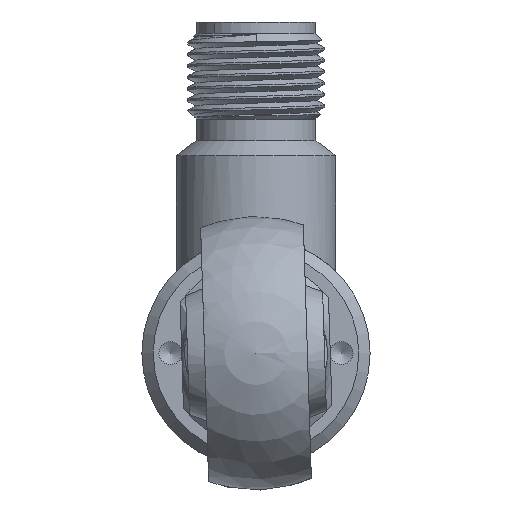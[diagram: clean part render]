
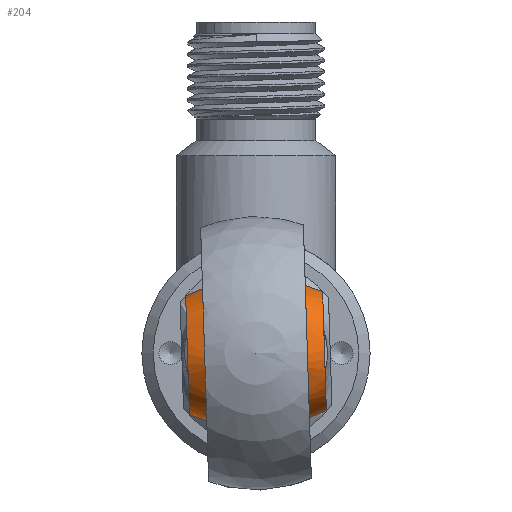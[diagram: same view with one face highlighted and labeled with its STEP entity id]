
A CAD part, left-side view. The second image highlights one B-rep face of the part: STEP entity #204.
In plain terms, the highlighted free-form (B-spline) face has degree [3, 3] with [4, 7] control points.
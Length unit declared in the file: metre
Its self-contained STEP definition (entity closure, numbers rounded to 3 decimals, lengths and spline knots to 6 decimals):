
#204 = ADVANCED_FACE( '', ( #469, #470 ), #471, .T. );
#469 = FACE_OUTER_BOUND( '', #909, .T. );
#470 = FACE_OUTER_BOUND( '', #910, .T. );
#471 = ( B_SPLINE_SURFACE( 3, 3, ( ( #912, #913, #914, #915, #916, #917, #918 ), ( #919, #920, #921, #922, #923, #924, #925 ), ( #926, #927, #928, #929, #930, #931, #932 ), ( #933, #934, #935, #936, #937, #938, #939 ) ), .UNSPECIFIED., .F., .T., .F. )B_SPLINE_SURFACE_WITH_KNOTS( ( 4, 4 ), ( 4, 3, 4 ), ( 0., 6.283185 ), ( -0.582914, 0., 0.582914 ), .UNSPECIFIED. )RATIONAL_B_SPLINE_SURFACE( ( ( 1., 0.333, 0.333, 1., 0.333, 0.333, 1. ), ( 0.89, 0.297, 0.297, 0.89, 0.297, 0.297, 0.89 ), ( 0.89, 0.297, 0.297, 0.89, 0.297, 0.297, 0.89 ), ( 1., 0.333, 0.333, 1., 0.333, 0.333, 1. ) ) )BOUNDED_SURFACE(  )REPRESENTATION_ITEM( '' )GEOMETRIC_REPRESENTATION_ITEM(  )SURFACE(  ) );
#909 = EDGE_LOOP( '', ( #2569 ) );
#910 = EDGE_LOOP( '', ( #2570 ) );
#912 = CARTESIAN_POINT( '', ( -0.174857, 0.006021, 0.00058 ) );
#913 = CARTESIAN_POINT( '', ( -0.173318, 0.005697, -0.0097 ) );
#914 = CARTESIAN_POINT( '', ( -0.183603, 0.005648, -0.011239 ) );
#915 = CARTESIAN_POINT( '', ( -0.185143, 0.005973, -0.000959 ) );
#916 = CARTESIAN_POINT( '', ( -0.186682, 0.006297, 0.009322 ) );
#917 = CARTESIAN_POINT( '', ( -0.176397, 0.006346, 0.01086 ) );
#918 = CARTESIAN_POINT( '', ( -0.174857, 0.006021, 0.00058 ) );
#919 = CARTESIAN_POINT( '', ( -0.17241, 0.002282, 0.001065 ) );
#920 = CARTESIAN_POINT( '', ( -0.170138, 0.001803, -0.014107 ) );
#921 = CARTESIAN_POINT( '', ( -0.185318, 0.001732, -0.016378 ) );
#922 = CARTESIAN_POINT( '', ( -0.18759, 0.00221, -0.001206 ) );
#923 = CARTESIAN_POINT( '', ( -0.189862, 0.002689, 0.013965 ) );
#924 = CARTESIAN_POINT( '', ( -0.174682, 0.002761, 0.016236 ) );
#925 = CARTESIAN_POINT( '', ( -0.17241, 0.002282, 0.001065 ) );
#926 = CARTESIAN_POINT( '', ( -0.17241, -0.00221, 0.001206 ) );
#927 = CARTESIAN_POINT( '', ( -0.170138, -0.002689, -0.013965 ) );
#928 = CARTESIAN_POINT( '', ( -0.185318, -0.002761, -0.016236 ) );
#929 = CARTESIAN_POINT( '', ( -0.18759, -0.002282, -0.001065 ) );
#930 = CARTESIAN_POINT( '', ( -0.189862, -0.001803, 0.014107 ) );
#931 = CARTESIAN_POINT( '', ( -0.174682, -0.001732, 0.016378 ) );
#932 = CARTESIAN_POINT( '', ( -0.17241, -0.00221, 0.001206 ) );
#933 = CARTESIAN_POINT( '', ( -0.174857, -0.005973, 0.000959 ) );
#934 = CARTESIAN_POINT( '', ( -0.173318, -0.006297, -0.009322 ) );
#935 = CARTESIAN_POINT( '', ( -0.183603, -0.006346, -0.01086 ) );
#936 = CARTESIAN_POINT( '', ( -0.185143, -0.006021, -0.00058 ) );
#937 = CARTESIAN_POINT( '', ( -0.186682, -0.005697, 0.0097 ) );
#938 = CARTESIAN_POINT( '', ( -0.176397, -0.005648, 0.011239 ) );
#939 = CARTESIAN_POINT( '', ( -0.174857, -0.005973, 0.000959 ) );
#2569 = ORIENTED_EDGE( '', *, *, #3390, .F. );
#2570 = ORIENTED_EDGE( '', *, *, #3391, .T. );
#3390 = EDGE_CURVE( '', #3887, #3887, #3888, .T. );
#3391 = EDGE_CURVE( '', #3889, #3889, #3890, .T. );
#3887 = VERTEX_POINT( '', #4773 );
#3888 = CIRCLE( '', #4774, 0.0052 );
#3889 = VERTEX_POINT( '', #4775 );
#3890 = CIRCLE( '', #4776, 0.0052 );
#4773 = CARTESIAN_POINT( '', ( -0.174857, 0.006021, 0.00058 ) );
#4774 = AXIS2_PLACEMENT_3D( '', #9264, #9265, #9266 );
#4775 = CARTESIAN_POINT( '', ( -0.174857, -0.005973, 0.000959 ) );
#4776 = AXIS2_PLACEMENT_3D( '', #9267, #9268, #9269 );
#9264 = CARTESIAN_POINT( '', ( -0.18, 0.005997, -0.000189 ) );
#9265 = DIRECTION( '', ( 0., 1., -0.032 ) );
#9266 = DIRECTION( '', ( 0.989, 0.005, 0.148 ) );
#9267 = CARTESIAN_POINT( '', ( -0.18, -0.005997, 0.000189 ) );
#9268 = DIRECTION( '', ( 0., 1., -0.032 ) );
#9269 = DIRECTION( '', ( 0.989, 0.005, 0.148 ) );
